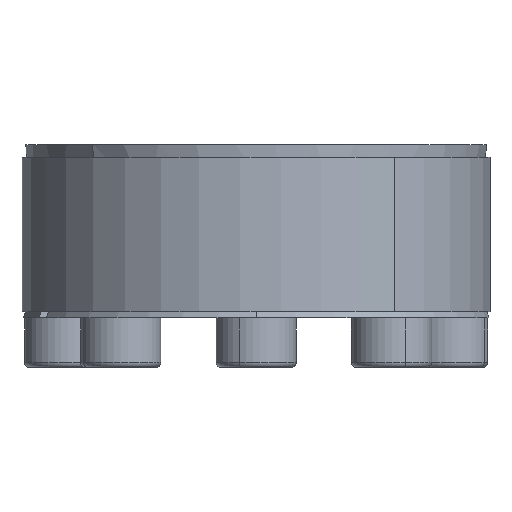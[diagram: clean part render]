
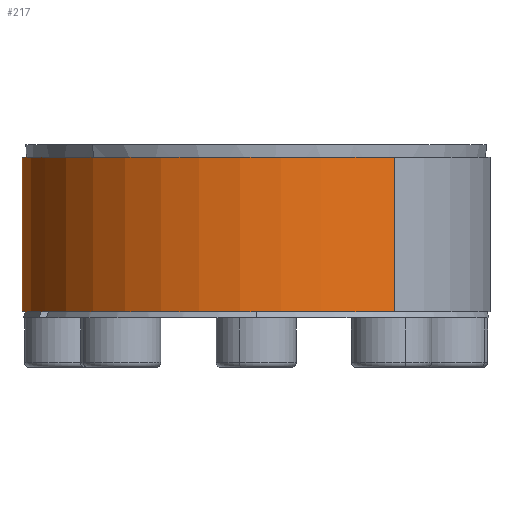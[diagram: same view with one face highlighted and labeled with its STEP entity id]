
A CAD part, left-side view. The second image highlights one B-rep face of the part: STEP entity #217.
In plain terms, the highlighted cylindrical face has radius 37.985 mm (diameter 75.97 mm), a partial arc.
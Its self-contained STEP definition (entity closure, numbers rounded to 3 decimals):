
#217 = ADVANCED_FACE ( 'NONE', ( #8220 ), #2141, .T. ) ;
#394 = DIRECTION ( 'NONE',  ( 0., 0., -1. ) ) ;
#784 = VECTOR ( 'NONE', #10555, 1000. ) ;
#933 = ORIENTED_EDGE ( 'NONE', *, *, #1755, .T. ) ;
#1045 = CARTESIAN_POINT ( 'NONE',  ( 30.731, 22.327, 26.026 ) ) ;
#1064 = CARTESIAN_POINT ( 'NONE',  ( 0., 0., 26.026 ) ) ;
#1353 = VERTEX_POINT ( 'NONE', #4274 ) ;
#1755 = EDGE_CURVE ( 'NONE', #5494, #5783, #9884, .T. ) ;
#1797 = VECTOR ( 'NONE', #394, 1000. ) ;
#2055 = DIRECTION ( 'NONE',  ( -0.809, -0.588, 0. ) ) ;
#2141 = CYLINDRICAL_SURFACE ( 'NONE', #8973, 37.985 ) ;
#2178 = ORIENTED_EDGE ( 'NONE', *, *, #10826, .T. ) ;
#2206 = DIRECTION ( 'NONE',  ( 0., 0., -1. ) ) ;
#2966 = EDGE_CURVE ( 'NONE', #1353, #5783, #8531, .T. ) ;
#3076 = CARTESIAN_POINT ( 'NONE',  ( 30.731, 22.327, 1.026 ) ) ;
#3139 = CARTESIAN_POINT ( 'NONE',  ( 0., 0., 26.026 ) ) ;
#4274 = CARTESIAN_POINT ( 'NONE',  ( -30.731, -22.327, 26.026 ) ) ;
#4378 = LINE ( 'NONE', #8131, #1797 ) ;
#4511 = EDGE_CURVE ( 'NONE', #10055, #1353, #9709, .T. ) ;
#4728 = CARTESIAN_POINT ( 'NONE',  ( -30.731, -22.327, 26.026 ) ) ;
#5187 = CARTESIAN_POINT ( 'NONE',  ( 0., 0., 1.026 ) ) ;
#5373 = AXIS2_PLACEMENT_3D ( 'NONE', #1064, #7848, #2055 ) ;
#5494 = VERTEX_POINT ( 'NONE', #3076 ) ;
#5783 = VERTEX_POINT ( 'NONE', #10402 ) ;
#6160 = DIRECTION ( 'NONE',  ( -0.809, -0.588, 0. ) ) ;
#7079 = DIRECTION ( 'NONE',  ( 0.809, 0.588, 0. ) ) ;
#7848 = DIRECTION ( 'NONE',  ( 0., 0., 1. ) ) ;
#8131 = CARTESIAN_POINT ( 'NONE',  ( 30.731, 22.327, 26.026 ) ) ;
#8220 = FACE_OUTER_BOUND ( 'NONE', #12358, .T. ) ;
#8308 = ORIENTED_EDGE ( 'NONE', *, *, #2966, .F. ) ;
#8531 = LINE ( 'NONE', #4728, #784 ) ;
#8973 = AXIS2_PLACEMENT_3D ( 'NONE', #3139, #2206, #7079 ) ;
#9709 = CIRCLE ( 'NONE', #5373, 37.985 ) ;
#9884 = CIRCLE ( 'NONE', #11561, 37.985 ) ;
#10055 = VERTEX_POINT ( 'NONE', #1045 ) ;
#10402 = CARTESIAN_POINT ( 'NONE',  ( -30.731, -22.327, 1.026 ) ) ;
#10555 = DIRECTION ( 'NONE',  ( 0., 0., -1. ) ) ;
#10826 = EDGE_CURVE ( 'NONE', #10055, #5494, #4378, .T. ) ;
#11024 = ORIENTED_EDGE ( 'NONE', *, *, #4511, .F. ) ;
#11561 = AXIS2_PLACEMENT_3D ( 'NONE', #5187, #11992, #6160 ) ;
#11992 = DIRECTION ( 'NONE',  ( 0., 0., 1. ) ) ;
#12358 = EDGE_LOOP ( 'NONE', ( #8308, #11024, #2178, #933 ) ) ;
